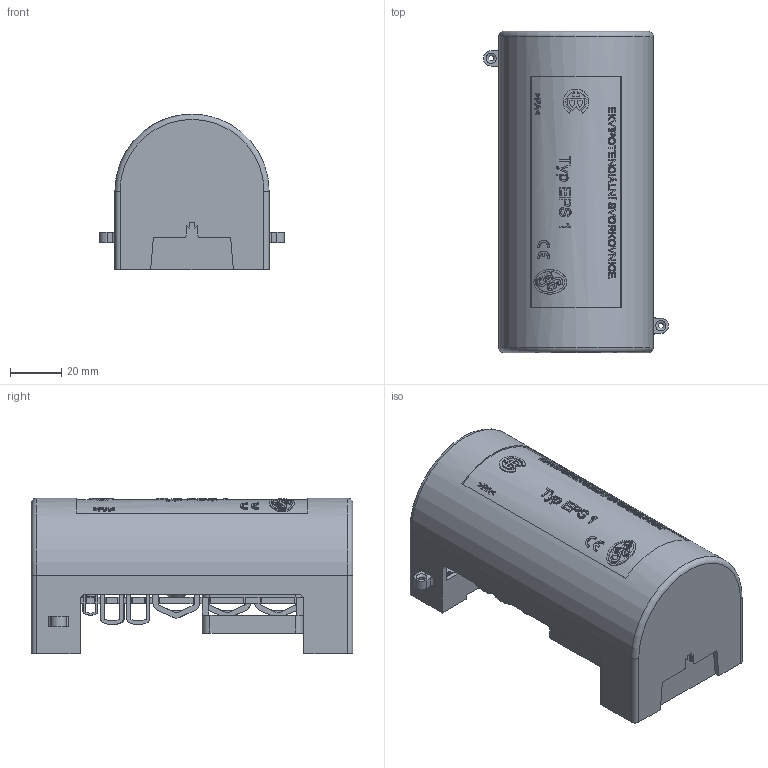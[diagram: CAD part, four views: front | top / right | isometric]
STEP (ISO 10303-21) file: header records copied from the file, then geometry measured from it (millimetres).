
FILE_DESCRIPTION(/* description */ ('Unknown'),/* implementation_level */ '2;1');
FILE_NAME(/* name */ 'EPS 1_kryt',/* time_stamp */ '2021-08-09T11:48:11+02:00',/* author */ ('Unknown'),/* organization */ ('Unknown'),/* preprocessor_version */ 'ST-DEVELOPER v16.7',/* originating_system */ 'Solid Edge',/* authorisation */ 'Unknown');
FILE_SCHEMA (('AUTOMOTIVE_DESIGN {1 0 10303 214 3 1 1}'));
Products named in the file (1): EPS 1_kryt
Bounding box: 72 x 125 x 60.5 mm (x, y, z)
Volume: 88155.6 mm3; surface area: 87575.1 mm2
Topology: 1 solids, 1 shells, 2485 faces, 6867 edges, 4514 vertices
Faces by surface type: plane 1764, cylinder 537, bspline 120, cone 42, torus 22
Full cylindrical faces by diameter (mm): 2 x2, 2.2 x2, 3.5 x8, 3.6 x2, 4.8 x4, 5 x14, 6 x4, 8 x14, 8.5 x4, 10 x2, 13 x4
Entity records: 101252 total; most frequent: CARTESIAN_POINT 20939, ORIENTED_EDGE 13388, DIRECTION 12304, EDGE_CURVE 6694, LINE 4980, VECTOR 4980, VERTEX_POINT 4462, AXIS2_PLACEMENT_3D 3662
